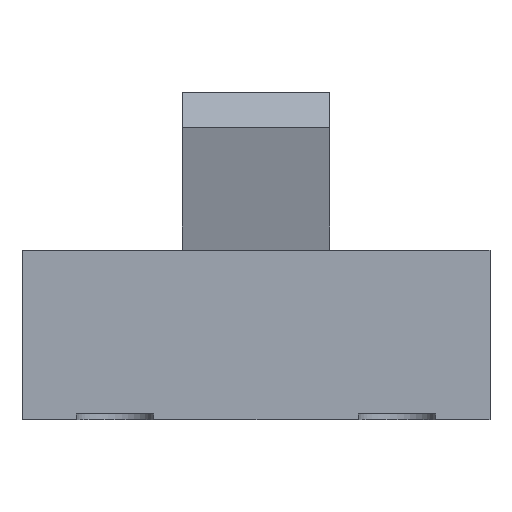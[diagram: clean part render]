
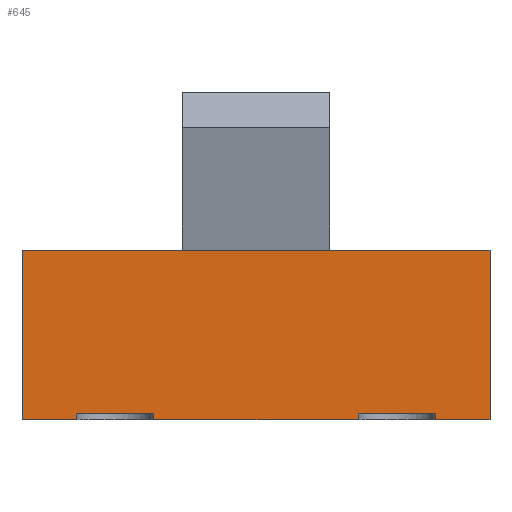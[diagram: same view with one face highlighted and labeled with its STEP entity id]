
A CAD part, front view. The second image highlights one B-rep face of the part: STEP entity #645.
In plain terms, the highlighted planar face has unit normal (0, -1, 0).
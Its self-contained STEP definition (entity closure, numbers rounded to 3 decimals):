
#65=ORIENTED_EDGE('',*,*,#243,.F.);
#66=ORIENTED_EDGE('',*,*,#244,.T.);
#67=ORIENTED_EDGE('',*,*,#245,.T.);
#68=ORIENTED_EDGE('',*,*,#246,.T.);
#69=ORIENTED_EDGE('',*,*,#247,.F.);
#70=ORIENTED_EDGE('',*,*,#248,.F.);
#71=ORIENTED_EDGE('',*,*,#249,.T.);
#72=ORIENTED_EDGE('',*,*,#250,.F.);
#73=ORIENTED_EDGE('',*,*,#251,.T.);
#74=ORIENTED_EDGE('',*,*,#252,.T.);
#75=ORIENTED_EDGE('',*,*,#253,.F.);
#76=ORIENTED_EDGE('',*,*,#254,.T.);
#77=ORIENTED_EDGE('',*,*,#255,.T.);
#78=ORIENTED_EDGE('',*,*,#256,.T.);
#243=EDGE_CURVE('',#332,#333,#392,.T.);
#244=EDGE_CURVE('',#332,#334,#393,.T.);
#245=EDGE_CURVE('',#334,#335,#394,.T.);
#246=EDGE_CURVE('',#335,#336,#395,.T.);
#247=EDGE_CURVE('',#337,#336,#396,.T.);
#248=EDGE_CURVE('',#338,#337,#397,.T.);
#249=EDGE_CURVE('',#338,#339,#398,.T.);
#250=EDGE_CURVE('',#340,#339,#399,.T.);
#251=EDGE_CURVE('',#340,#341,#400,.T.);
#252=EDGE_CURVE('',#341,#342,#401,.T.);
#253=EDGE_CURVE('',#343,#342,#402,.T.);
#254=EDGE_CURVE('',#343,#344,#403,.T.);
#255=EDGE_CURVE('',#344,#345,#404,.T.);
#256=EDGE_CURVE('',#345,#333,#405,.T.);
#332=VERTEX_POINT('',#928);
#333=VERTEX_POINT('',#929);
#334=VERTEX_POINT('',#931);
#335=VERTEX_POINT('',#933);
#336=VERTEX_POINT('',#935);
#337=VERTEX_POINT('',#937);
#338=VERTEX_POINT('',#939);
#339=VERTEX_POINT('',#941);
#340=VERTEX_POINT('',#943);
#341=VERTEX_POINT('',#945);
#342=VERTEX_POINT('',#947);
#343=VERTEX_POINT('',#949);
#344=VERTEX_POINT('',#951);
#345=VERTEX_POINT('',#953);
#392=LINE('',#927,#459);
#393=LINE('',#930,#460);
#394=LINE('',#932,#461);
#395=LINE('',#934,#462);
#396=LINE('',#936,#463);
#397=LINE('',#938,#464);
#398=LINE('',#940,#465);
#399=LINE('',#942,#466);
#400=LINE('',#944,#467);
#401=LINE('',#946,#468);
#402=LINE('',#948,#469);
#403=LINE('',#950,#470);
#404=LINE('',#952,#471);
#405=LINE('',#954,#472);
#459=VECTOR('',#752,1000.);
#460=VECTOR('',#753,1000.);
#461=VECTOR('',#754,1000.);
#462=VECTOR('',#755,1000.);
#463=VECTOR('',#756,1000.);
#464=VECTOR('',#757,1000.);
#465=VECTOR('',#758,1000.);
#466=VECTOR('',#759,1000.);
#467=VECTOR('',#760,1000.);
#468=VECTOR('',#761,1000.);
#469=VECTOR('',#762,1000.);
#470=VECTOR('',#763,1000.);
#471=VECTOR('',#764,1000.);
#472=VECTOR('',#765,1000.);
#526=EDGE_LOOP('',(#65,#66,#67,#68,#69,#70,#71,#72,#73,#74,#75,#76,#77,
#78));
#573=FACE_BOUND('',#526,.T.);
#620=PLANE('',#694);
#645=ADVANCED_FACE('',(#573),#620,.T.);
#694=AXIS2_PLACEMENT_3D('',#926,#750,#751);
#750=DIRECTION('',(0.,-1.,0.));
#751=DIRECTION('',(0.,0.,-1.));
#752=DIRECTION('',(0.,0.,-1.));
#753=DIRECTION('',(1.,0.,0.));
#754=DIRECTION('',(0.,0.,-1.));
#755=DIRECTION('',(1.,0.,0.));
#756=DIRECTION('',(0.,0.,-1.));
#757=DIRECTION('',(1.,0.,0.));
#758=DIRECTION('',(-1.,0.,0.));
#759=DIRECTION('',(1.,0.,0.));
#760=DIRECTION('',(0.,0.,-1.));
#761=DIRECTION('',(1.,0.,0.));
#762=DIRECTION('',(0.,0.,-1.));
#763=DIRECTION('',(1.,0.,0.));
#764=DIRECTION('',(0.,0.,-1.));
#765=DIRECTION('',(1.,0.,0.));
#926=CARTESIAN_POINT('',(-376.,54.38,-11.502));
#927=CARTESIAN_POINT('',(8.75,54.38,-36.528));
#928=CARTESIAN_POINT('',(8.75,54.38,-38.998));
#929=CARTESIAN_POINT('',(8.75,54.38,-39.498));
#930=CARTESIAN_POINT('',(1.95,54.38,-38.998));
#931=CARTESIAN_POINT('',(15.35,54.38,-38.998));
#932=CARTESIAN_POINT('',(15.35,54.38,-36.528));
#933=CARTESIAN_POINT('',(15.35,54.38,-39.498));
#934=CARTESIAN_POINT('',(-376.,54.38,-39.498));
#935=CARTESIAN_POINT('',(20.,54.38,-39.498));
#936=CARTESIAN_POINT('',(20.,54.38,-11.502));
#937=CARTESIAN_POINT('',(20.,54.38,-25.002));
#938=CARTESIAN_POINT('',(-376.,54.38,-25.002));
#939=CARTESIAN_POINT('',(6.305,54.38,-25.002));
#940=CARTESIAN_POINT('',(6.936,54.38,-25.002));
#941=CARTESIAN_POINT('',(-6.305,54.38,-25.002));
#942=CARTESIAN_POINT('',(-376.,54.38,-25.002));
#943=CARTESIAN_POINT('',(-20.,54.38,-25.002));
#944=CARTESIAN_POINT('',(-20.,54.38,-11.502));
#945=CARTESIAN_POINT('',(-20.,54.38,-39.498));
#946=CARTESIAN_POINT('',(-376.,54.38,-39.498));
#947=CARTESIAN_POINT('',(-15.35,54.38,-39.498));
#948=CARTESIAN_POINT('',(-15.35,54.38,-36.528));
#949=CARTESIAN_POINT('',(-15.35,54.38,-38.998));
#950=CARTESIAN_POINT('',(1.95,54.38,-38.998));
#951=CARTESIAN_POINT('',(-8.75,54.38,-38.998));
#952=CARTESIAN_POINT('',(-8.75,54.38,-36.528));
#953=CARTESIAN_POINT('',(-8.75,54.38,-39.498));
#954=CARTESIAN_POINT('',(-376.,54.38,-39.498));
